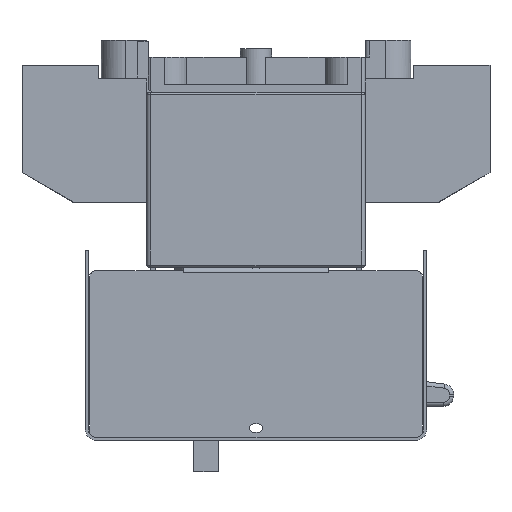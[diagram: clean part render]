
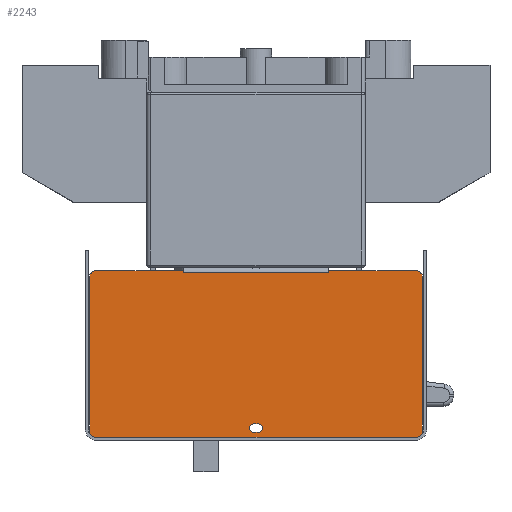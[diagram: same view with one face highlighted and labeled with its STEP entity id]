
A CAD part, left-side view. The second image highlights one B-rep face of the part: STEP entity #2243.
In plain terms, the highlighted planar face has unit normal (-1, 0, 0).
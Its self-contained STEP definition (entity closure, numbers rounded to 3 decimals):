
#2243=ADVANCED_FACE('',(#9389,#9390),#3356,.T.);
#3356=PLANE('',#25812);
#5159=LINE('',#37515,#7880);
#5169=LINE('',#37540,#7890);
#5171=LINE('',#37544,#7892);
#5173=LINE('',#37548,#7894);
#5176=LINE('',#37554,#7897);
#5186=LINE('',#37589,#7907);
#5187=LINE('',#37593,#7908);
#5188=LINE('',#37594,#7909);
#5189=LINE('',#37598,#7910);
#5190=LINE('',#37602,#7911);
#5191=LINE('',#37606,#7912);
#5192=LINE('',#37610,#7913);
#7880=VECTOR('',#30196,1.);
#7890=VECTOR('',#30222,1.);
#7892=VECTOR('',#30226,1.);
#7894=VECTOR('',#30230,1.);
#7897=VECTOR('',#30235,1.);
#7907=VECTOR('',#30263,1.);
#7908=VECTOR('',#30266,1.);
#7909=VECTOR('',#30267,1.);
#7910=VECTOR('',#30270,1.);
#7911=VECTOR('',#30273,1.);
#7912=VECTOR('',#30276,1.);
#7913=VECTOR('',#30279,1.);
#9389=FACE_BOUND('',#10214,.T.);
#9390=FACE_BOUND('',#10215,.T.);
#10214=EDGE_LOOP('',(#14449,#14450,#14451,#14452));
#10215=EDGE_LOOP('',(#14453,#14454,#14455,#14456,#14457,#14458,#14459,#14460,
#14461,#14462,#14463,#14464,#14465,#14466));
#14449=ORIENTED_EDGE('',*,*,#22215,.T.);
#14450=ORIENTED_EDGE('',*,*,#22216,.T.);
#14451=ORIENTED_EDGE('',*,*,#22217,.T.);
#14452=ORIENTED_EDGE('',*,*,#22218,.T.);
#14453=ORIENTED_EDGE('',*,*,#22194,.F.);
#14454=ORIENTED_EDGE('',*,*,#22192,.T.);
#14455=ORIENTED_EDGE('',*,*,#22179,.T.);
#14456=ORIENTED_EDGE('',*,*,#22196,.T.);
#14457=ORIENTED_EDGE('',*,*,#22199,.F.);
#14458=ORIENTED_EDGE('',*,*,#22219,.T.);
#14459=ORIENTED_EDGE('',*,*,#22220,.T.);
#14460=ORIENTED_EDGE('',*,*,#22221,.T.);
#14461=ORIENTED_EDGE('',*,*,#22222,.T.);
#14462=ORIENTED_EDGE('',*,*,#22223,.T.);
#14463=ORIENTED_EDGE('',*,*,#22224,.T.);
#14464=ORIENTED_EDGE('',*,*,#22225,.T.);
#14465=ORIENTED_EDGE('',*,*,#22226,.T.);
#14466=ORIENTED_EDGE('',*,*,#22227,.T.);
#19284=VERTEX_POINT('',#37514);
#19285=VERTEX_POINT('',#37516);
#19290=VERTEX_POINT('',#37537);
#19293=VERTEX_POINT('',#37545);
#19294=VERTEX_POINT('',#37549);
#19296=VERTEX_POINT('',#37555);
#19310=VERTEX_POINT('',#37587);
#19311=VERTEX_POINT('',#37588);
#19312=VERTEX_POINT('',#37590);
#19313=VERTEX_POINT('',#37592);
#19314=VERTEX_POINT('',#37595);
#19315=VERTEX_POINT('',#37597);
#19316=VERTEX_POINT('',#37599);
#19317=VERTEX_POINT('',#37601);
#19318=VERTEX_POINT('',#37603);
#19319=VERTEX_POINT('',#37605);
#19320=VERTEX_POINT('',#37607);
#19321=VERTEX_POINT('',#37609);
#22179=EDGE_CURVE('',#19285,#19284,#5159,.T.);
#22192=EDGE_CURVE('',#19290,#19285,#5169,.T.);
#22194=EDGE_CURVE('',#19290,#19293,#5171,.T.);
#22196=EDGE_CURVE('',#19284,#19294,#5173,.T.);
#22199=EDGE_CURVE('',#19296,#19294,#5176,.T.);
#22215=EDGE_CURVE('',#19310,#19311,#24363,.T.);
#22216=EDGE_CURVE('',#19311,#19312,#5186,.T.);
#22217=EDGE_CURVE('',#19312,#19313,#24364,.T.);
#22218=EDGE_CURVE('',#19313,#19310,#5187,.T.);
#22219=EDGE_CURVE('',#19296,#19314,#5188,.T.);
#22220=EDGE_CURVE('',#19314,#19315,#24365,.T.);
#22221=EDGE_CURVE('',#19315,#19316,#5189,.T.);
#22222=EDGE_CURVE('',#19316,#19317,#24366,.T.);
#22223=EDGE_CURVE('',#19317,#19318,#5190,.T.);
#22224=EDGE_CURVE('',#19318,#19319,#24367,.T.);
#22225=EDGE_CURVE('',#19319,#19320,#5191,.T.);
#22226=EDGE_CURVE('',#19320,#19321,#24368,.T.);
#22227=EDGE_CURVE('',#19321,#19293,#5192,.T.);
#24363=CIRCLE('',#25806,2.1);
#24364=CIRCLE('',#25807,2.1);
#24365=CIRCLE('',#25808,3.);
#24366=CIRCLE('',#25809,3.);
#24367=CIRCLE('',#25810,3.);
#24368=CIRCLE('',#25811,3.);
#25806=AXIS2_PLACEMENT_3D('',#37586,#30261,#30262);
#25807=AXIS2_PLACEMENT_3D('',#37591,#30264,#30265);
#25808=AXIS2_PLACEMENT_3D('',#37596,#30268,#30269);
#25809=AXIS2_PLACEMENT_3D('',#37600,#30271,#30272);
#25810=AXIS2_PLACEMENT_3D('',#37604,#30274,#30275);
#25811=AXIS2_PLACEMENT_3D('',#37608,#30277,#30278);
#25812=AXIS2_PLACEMENT_3D('',#37611,#30280,#30281);
#30196=DIRECTION('',(0.,1.,0.));
#30222=DIRECTION('',(0.,1.,0.));
#30226=DIRECTION('',(0.,0.,1.));
#30230=DIRECTION('',(0.,1.,0.));
#30235=DIRECTION('',(0.,0.,-1.));
#30261=DIRECTION('',(1.,0.,0.));
#30262=DIRECTION('',(0.,1.,0.));
#30263=DIRECTION('',(0.,-1.,0.));
#30264=DIRECTION('',(1.,0.,0.));
#30265=DIRECTION('',(0.,1.,0.));
#30266=DIRECTION('',(0.,1.,0.));
#30267=DIRECTION('',(0.,1.,0.));
#30268=DIRECTION('',(-1.,0.,0.));
#30269=DIRECTION('',(0.,1.,0.));
#30270=DIRECTION('',(0.,0.,-1.));
#30271=DIRECTION('',(-1.,0.,0.));
#30272=DIRECTION('',(0.,1.,0.));
#30273=DIRECTION('',(0.,-1.,0.));
#30274=DIRECTION('',(-1.,0.,0.));
#30275=DIRECTION('',(0.,1.,0.));
#30276=DIRECTION('',(0.,0.,1.));
#30277=DIRECTION('',(-1.,0.,0.));
#30278=DIRECTION('',(0.,1.,0.));
#30279=DIRECTION('',(0.,1.,0.));
#30280=DIRECTION('',(-1.,0.,0.));
#30281=DIRECTION('',(0.,-1.,0.));
#37514=CARTESIAN_POINT('',(-189.3,35.,-86.8));
#37515=CARTESIAN_POINT('',(-189.3,50.5,-86.8));
#37516=CARTESIAN_POINT('',(-189.3,-35.,-86.8));
#37537=CARTESIAN_POINT('',(-189.3,-35.002,-86.8));
#37540=CARTESIAN_POINT('',(-189.3,77.,-86.8));
#37544=CARTESIAN_POINT('',(-189.3,-35.002,-162.8));
#37545=CARTESIAN_POINT('',(-189.3,-35.002,-85.8));
#37548=CARTESIAN_POINT('',(-189.3,77.,-86.8));
#37549=CARTESIAN_POINT('',(-189.3,35.002,-86.8));
#37554=CARTESIAN_POINT('',(-189.3,35.002,-162.8));
#37555=CARTESIAN_POINT('',(-189.3,35.002,-85.8));
#37586=CARTESIAN_POINT('',(-189.3,1.,-161.4));
#37587=CARTESIAN_POINT('',(-189.3,1.,-163.5));
#37588=CARTESIAN_POINT('',(-189.3,1.,-159.3));
#37589=CARTESIAN_POINT('',(-189.3,1.,-159.3));
#37590=CARTESIAN_POINT('',(-189.3,-1.,-159.3));
#37591=CARTESIAN_POINT('',(-189.3,-1.,-161.4));
#37592=CARTESIAN_POINT('',(-189.3,-1.,-163.5));
#37593=CARTESIAN_POINT('',(-189.3,-1.,-163.5));
#37594=CARTESIAN_POINT('',(-189.3,-77.,-85.8));
#37595=CARTESIAN_POINT('',(-189.3,77.,-85.8));
#37596=CARTESIAN_POINT('',(-189.3,77.,-88.8));
#37597=CARTESIAN_POINT('',(-189.3,80.,-88.8));
#37598=CARTESIAN_POINT('',(-189.3,80.,-88.8));
#37599=CARTESIAN_POINT('',(-189.3,80.,-162.8));
#37600=CARTESIAN_POINT('',(-189.3,77.,-162.8));
#37601=CARTESIAN_POINT('',(-189.3,77.,-165.8));
#37602=CARTESIAN_POINT('',(-189.3,77.,-165.8));
#37603=CARTESIAN_POINT('',(-189.3,-77.,-165.8));
#37604=CARTESIAN_POINT('',(-189.3,-77.,-162.8));
#37605=CARTESIAN_POINT('',(-189.3,-80.,-162.8));
#37606=CARTESIAN_POINT('',(-189.3,-80.,-162.8));
#37607=CARTESIAN_POINT('',(-189.3,-80.,-88.8));
#37608=CARTESIAN_POINT('',(-189.3,-77.,-88.8));
#37609=CARTESIAN_POINT('',(-189.3,-77.,-85.8));
#37610=CARTESIAN_POINT('',(-189.3,-77.,-85.8));
#37611=CARTESIAN_POINT('',(-189.3,77.,-162.8));
